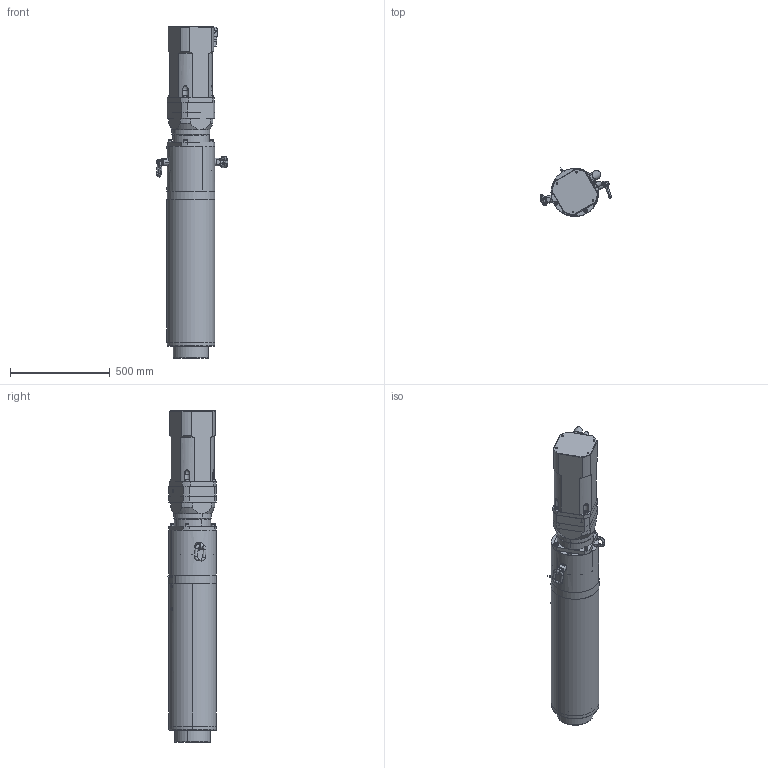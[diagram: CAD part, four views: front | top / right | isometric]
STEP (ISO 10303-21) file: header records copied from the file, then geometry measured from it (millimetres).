
FILE_DESCRIPTION (( 'STEP AP214' ), '1' );
FILE_NAME ('RLWIK200D-035-010HG0.STEP', '2023-04-06T06:26:42', ( '' ), ( '' ), 'SwSTEP 2.0', 'SolidWorks 2021', '' );
FILE_SCHEMA (( 'AUTOMOTIVE_DESIGN' ));
Length unit declared in the file: millimetre
Products named in the file (1): RLWIK200D-035-010HG0
Bounding box: 356.89 x 245.71 x 1667 mm (x, y, z)
Surface area: 3199406.6 mm2 (no closed solid volume)
Topology: 0 solids, 38 shells, 1336 faces, 3186 edges, 1936 vertices
Faces by surface type: cylinder 566, plane 454, cone 228, torus 82, bspline 6
Entity records: 55129 total; most frequent: CARTESIAN_POINT 9115, DIRECTION 6889, ORIENTED_EDGE 6092, EDGE_CURVE 3052, AXIS2_PLACEMENT_3D 2736, VERTEX_POINT 1936, EDGE_LOOP 1582, LINE 1417
